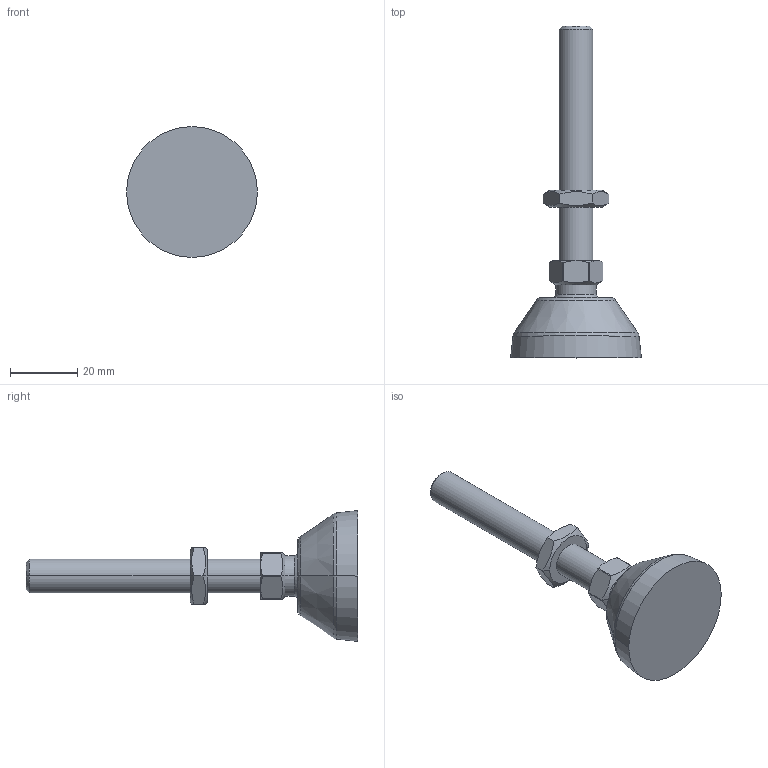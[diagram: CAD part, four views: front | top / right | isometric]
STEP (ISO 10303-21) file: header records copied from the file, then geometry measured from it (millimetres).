
FILE_DESCRIPTION (( 'STEP AP203' ), '1' );
FILE_NAME ('30025_STE40M10100.STEP', '2018-03-20T09:11:59', ( '' ), ( '' ), 'SwSTEP 2.0', 'SolidWorks 2017', '' );
FILE_SCHEMA (( 'CONFIG_CONTROL_DESIGN' ));
Length unit declared in the file: millimetre
Products named in the file (1): 30025_STE40M10100
Bounding box: 39 x 99 x 39 mm (x, y, z)
Volume: 23857.9 mm3; surface area: 7180.9 mm2
Topology: 1 solids, 1 shells, 72 faces, 162 edges, 97 vertices
Faces by surface type: plane 24, cone 19, cylinder 15, bspline 14
Entity records: 2681 total; most frequent: CARTESIAN_POINT 1100, ORIENTED_EDGE 324, DIRECTION 302, EDGE_CURVE 162, AXIS2_PLACEMENT_3D 131, VERTEX_POINT 97, EDGE_LOOP 77, FACE_OUTER_BOUND 72
